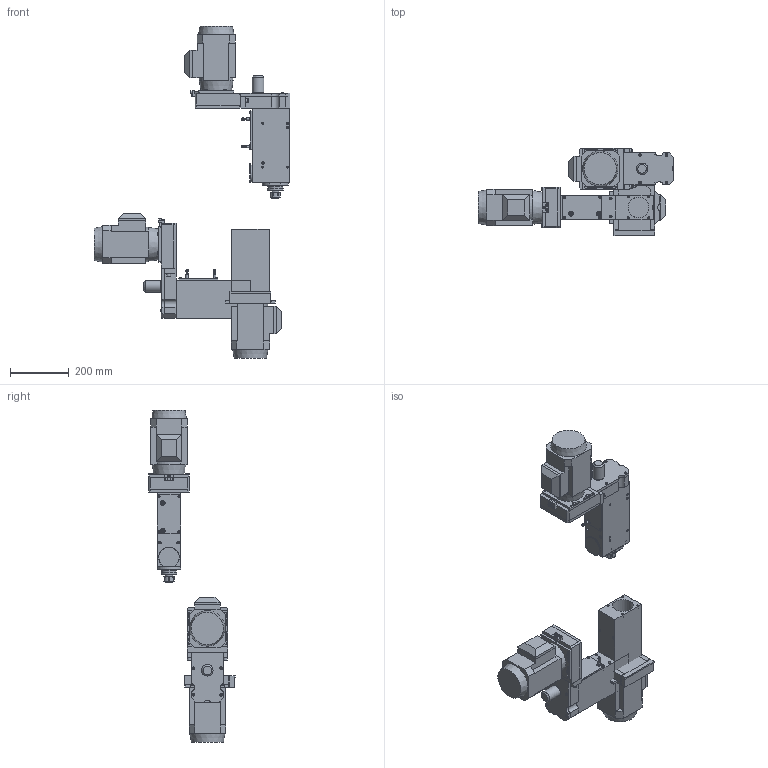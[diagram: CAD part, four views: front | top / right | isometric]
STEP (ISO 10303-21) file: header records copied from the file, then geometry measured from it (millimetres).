
FILE_DESCRIPTION( ( 'STEP AP203' ), '1' );
FILE_NAME( 'C:/Documents and Settings/Saverio/Desktop/disegni ironcad/unità serie 1/F110/F 110_P.stp', '2013-12-10T11:22:54', ( ' ' ), ( ' ' ), 'XStep 1.0', ' ', ' ' );
FILE_SCHEMA( ( 'CONFIG_CONTROL_DESIGN' ) );
Length unit declared in the file: metre
Products named in the file (45): Assem1; Assem2; Assem3; 1; 2; 3; 4; 5; 6; 7; 8; 9; 10; 11; 12; 13; 14; 15; 16; 17; 18; 19; 20; 21; 22; 23; 24; 25; 26; 27; 28; 29; 30; 31; 32; 33; 34; 35; 36; 37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
Bounding box: 664.38 x 294.16 x 1125.46 mm (x, y, z)
Volume: 23651985.1 mm3; surface area: 2002964.2 mm2
Topology: 126 solids, 126 shells, 2160 faces, 4980 edges, 3237 vertices
Faces by surface type: plane 1227, cone 453, cylinder 381, sphere 54, torus 27, bspline 18
Full cylindrical faces by diameter (mm): 1 x18, 2.5 x24, 3.3 x18, 4 x6, 5 x15, 5.5 x45, 5.8 x6, 6.5 x12, 6.647 x6, 6.75 x36, 6.9 x6, 7 x6, 8 x18, 8.385 x3, 8.5 x6, 12.85 x6, 16 x9, 22.5 x3, 23.5 x3, 25 x3, 26 x3, 29 x3, 35 x6, 37 x3, 39 x3, 50 x12, 54 x3, 60 x9, 70 x6
Entity records: 21944 total; most frequent: CARTESIAN_POINT 5005, DIRECTION 3148, ORIENTED_EDGE 2678, EDGE_CURVE 1339, AXIS2_PLACEMENT_3D 1240, EDGE_LOOP 1056, VERTEX_POINT 985, FACE_OUTER_BOUND 840
